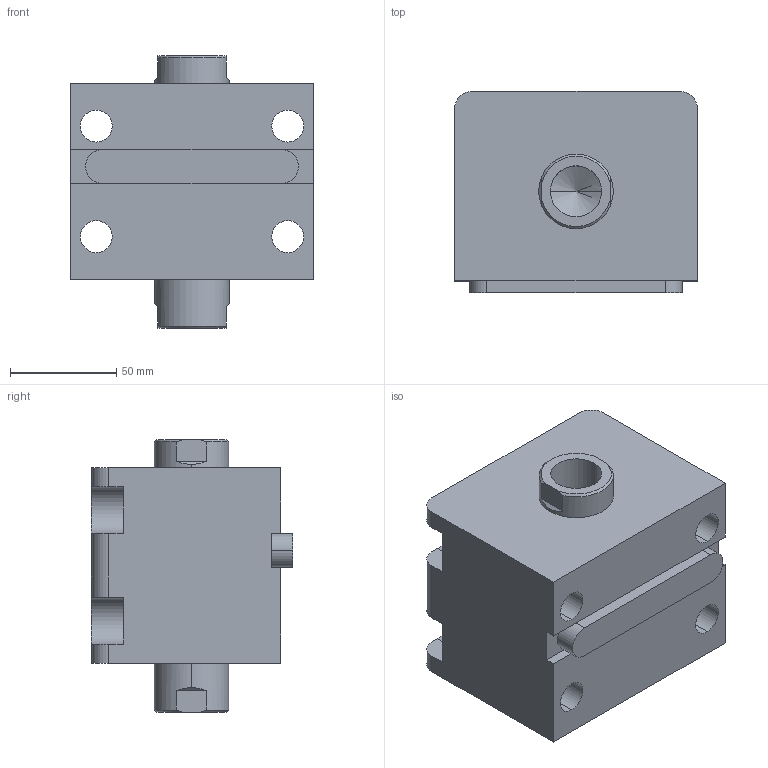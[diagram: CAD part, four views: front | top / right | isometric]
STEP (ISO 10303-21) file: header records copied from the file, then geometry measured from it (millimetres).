
FILE_DESCRIPTION (( 'STEP AP203' ), '1' );
FILE_NAME ('HTB-LW63-10N.STEP', '2019-10-09T08:23:22', ( '微软用户' ), ( '微软中国' ), 'SwSTEP 2.0', 'SolidWorks 2012', '' );
FILE_SCHEMA (( 'CONFIG_CONTROL_DESIGN' ));
Length unit declared in the file: millimetre
Products named in the file (4): HTB-LW63-10N; HTB-LA63-瑩; HTB-LW63-10N活塞杆; HTB-LW63-10掛极
Assembly tree (3 placements, depth 2):
  HTB-LW63-10N
    HTB-LW63-10掛极
    HTB-LW63-10N活塞杆
    HTB-LA63-瑩
Bounding box: 114 x 94.5 x 128 mm (x, y, z)
Volume: 832948.3 mm3; surface area: 121598.1 mm2
Topology: 3 solids, 3 shells, 101 faces, 253 edges, 164 vertices
Faces by surface type: plane 44, cylinder 41, cone 12, torus 4
Entity records: 3467 total; most frequent: CARTESIAN_POINT 576, DIRECTION 549, ORIENTED_EDGE 498, EDGE_CURVE 249, AXIS2_PLACEMENT_3D 209, VERTEX_POINT 164, VECTOR 131, LINE 131
